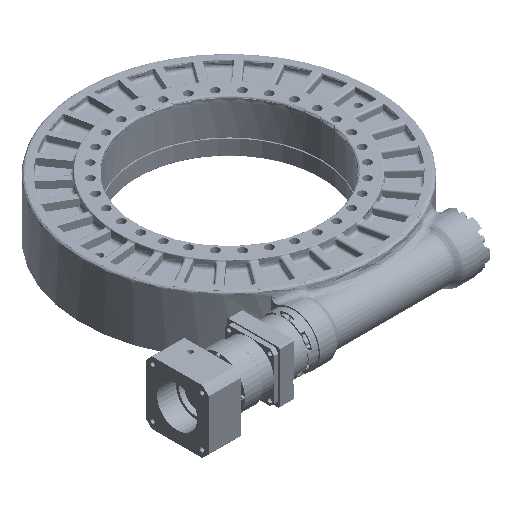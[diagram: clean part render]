
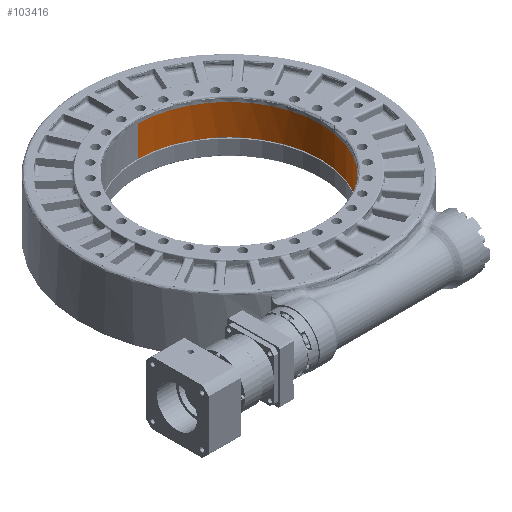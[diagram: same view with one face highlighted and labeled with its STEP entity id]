
A CAD part, isometric view. The second image highlights one B-rep face of the part: STEP entity #103416.
In plain terms, the highlighted cylindrical face has radius 261.5 mm (diameter 523 mm), a partial arc.
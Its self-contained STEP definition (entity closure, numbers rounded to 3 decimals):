
#2168 = CARTESIAN_POINT ( 'NONE',  ( -67.713, -10., -252.726 ) ) ;
#2981 = CARTESIAN_POINT ( 'NONE',  ( 8.565, -10., -261.5 ) ) ;
#3769 = CARTESIAN_POINT ( 'NONE',  ( 258.146, -10., -42.616 ) ) ;
#4538 = CARTESIAN_POINT ( 'NONE',  ( 261.08, -10., -17.108 ) ) ;
#6933 = CARTESIAN_POINT ( 'NONE',  ( -238.317, -10., -107.985 ) ) ;
#7721 = CARTESIAN_POINT ( 'NONE',  ( -207.576, -10., -159.273 ) ) ;
#10005 = VERTEX_POINT ( 'NONE', #82369 ) ;
#13455 = CARTESIAN_POINT ( 'NONE',  ( 254.804, -10., -59.416 ) ) ;
#15031 = CARTESIAN_POINT ( 'NONE',  ( -17.108, -10., -261.08 ) ) ;
#15821 = CARTESIAN_POINT ( 'NONE',  ( 178.852, -10., -190.965 ) ) ;
#16600 = CARTESIAN_POINT ( 'NONE',  ( 238.317, -10., -107.985 ) ) ;
#18187 = CARTESIAN_POINT ( 'NONE',  ( -212.671, -10., -152.403 ) ) ;
#18438 = ORIENTED_EDGE ( 'NONE', *, *, #129071, .T. ) ;
#18984 = CARTESIAN_POINT ( 'NONE',  ( -172.515, -10., -196.709 ) ) ;
#19770 = CARTESIAN_POINT ( 'NONE',  ( -234.66, -10., -115.717 ) ) ;
#24338 = CARTESIAN_POINT ( 'NONE',  ( 261.5, -10., 0. ) ) ;
#25846 = EDGE_CURVE ( 'NONE', #10005, #143662, #96815, .T. ) ;
#26311 = CARTESIAN_POINT ( 'NONE',  ( 130.824, -10., -226.585 ) ) ;
#27538 = VERTEX_POINT ( 'NONE', #108425 ) ;
#27793 = CARTESIAN_POINT ( 'NONE',  ( -261.5, -10., 0. ) ) ;
#29491 = CARTESIAN_POINT ( 'NONE',  ( -138.16, -10., -222.188 ) ) ;
#30837 = CYLINDRICAL_SURFACE ( 'NONE', #137971, 261.5 ) ;
#31892 = CARTESIAN_POINT ( 'NONE',  ( -107.985, -10., -238.317 ) ) ;
#32665 = CARTESIAN_POINT ( 'NONE',  ( -247.754, -10., -84.105 ) ) ;
#40788 = CARTESIAN_POINT ( 'NONE',  ( 42.616, -10., -258.146 ) ) ;
#41339 = DIRECTION ( 'NONE',  ( 0., 1., 0. ) ) ;
#43906 = CARTESIAN_POINT ( 'NONE',  ( -258.146, -10., -42.616 ) ) ;
#44711 = CARTESIAN_POINT ( 'NONE',  ( -196.709, -10., -172.515 ) ) ;
#46608 = AXIS2_PLACEMENT_3D ( 'NONE', #50500, #114872, #52103 ) ;
#50213 = EDGE_CURVE ( 'NONE', #143662, #27538, #146818, .T. ) ;
#50299 = ORIENTED_EDGE ( 'NONE', *, *, #25846, .F. ) ;
#50500 = CARTESIAN_POINT ( 'NONE',  ( 0., 77.5, 0. ) ) ;
#51230 = CARTESIAN_POINT ( 'NONE',  ( 152.403, -10., -212.671 ) ) ;
#52036 = CARTESIAN_POINT ( 'NONE',  ( -34.155, -10., -259.401 ) ) ;
#52103 = DIRECTION ( 'NONE',  ( 0., 0., 1. ) ) ;
#52810 = CARTESIAN_POINT ( 'NONE',  ( 247.754, -10., -84.105 ) ) ;
#53597 = CARTESIAN_POINT ( 'NONE',  ( -42.616, -10., -258.146 ) ) ;
#54382 = CARTESIAN_POINT ( 'NONE',  ( -261.5, -10., 0. ) ) ;
#54926 = FACE_OUTER_BOUND ( 'NONE', #72978, .T. ) ;
#55166 = CARTESIAN_POINT ( 'NONE',  ( -92.159, -10., -244.872 ) ) ;
#60601 = CARTESIAN_POINT ( 'NONE',  ( -261.5, -10., 0. ) ) ;
#62529 = CARTESIAN_POINT ( 'NONE',  ( 207.576, -10., -159.273 ) ) ;
#63296 = CARTESIAN_POINT ( 'NONE',  ( 252.726, -10., -67.713 ) ) ;
#64898 = CARTESIAN_POINT ( 'NONE',  ( 92.159, -10., -244.872 ) ) ;
#65685 = CARTESIAN_POINT ( 'NONE',  ( 115.717, -10., -234.66 ) ) ;
#68071 = CARTESIAN_POINT ( 'NONE',  ( -178.852, -10., -190.965 ) ) ;
#68803 = EDGE_CURVE ( 'NONE', #141704, #27538, #72279, .T. ) ;
#69679 = CARTESIAN_POINT ( 'NONE',  ( -190.965, -10., -178.852 ) ) ;
#72279 = CIRCLE ( 'NONE', #46608, 261.5 ) ;
#72978 = EDGE_LOOP ( 'NONE', ( #50299, #18438, #140172, #110296 ) ) ;
#74649 = CARTESIAN_POINT ( 'NONE',  ( 259.401, -10., -34.155 ) ) ;
#75443 = CARTESIAN_POINT ( 'NONE',  ( 84.105, -10., -247.754 ) ) ;
#77000 = CARTESIAN_POINT ( 'NONE',  ( 212.671, -10., -152.403 ) ) ;
#79351 = CARTESIAN_POINT ( 'NONE',  ( -84.105, -10., -247.754 ) ) ;
#81301 = VECTOR ( 'NONE', #109742, 1000. ) ;
#81739 = CARTESIAN_POINT ( 'NONE',  ( -254.804, -10., -59.416 ) ) ;
#82369 = CARTESIAN_POINT ( 'NONE',  ( 261.5, -10., 0. ) ) ;
#87461 = CARTESIAN_POINT ( 'NONE',  ( 172.515, -10., -196.709 ) ) ;
#88241 = CARTESIAN_POINT ( 'NONE',  ( 261.5, -10., -8.565 ) ) ;
#89810 = CARTESIAN_POINT ( 'NONE',  ( 159.273, -10., -207.576 ) ) ;
#92998 = CARTESIAN_POINT ( 'NONE',  ( -261.5, -10., -8.564 ) ) ;
#96750 = LINE ( 'NONE', #24338, #148239 ) ;
#96815 = B_SPLINE_CURVE_WITH_KNOTS ( 'NONE', 3,
 ( #151080, #88241, #4538, #74649, #3769, #13455, #63296, #52810, #151888, #16600, #148699, #126892, #99557, #77000, #62529, #126085, #137381, #15821, #87461, #89810, #51230, #136611, #26311, #65685, #138972, #64898, #75443, #114017, #100344, #40788, #111636, #113222, #2981, #114801, #15031, #52036, #53597, #112409, #2168, #79351, #55166, #31892, #104300, #115599, #29491, #105905, #117170, #18984, #68071, #69679, #44711, #7721, #18187, #140518, #106697, #19770, #6933, #127653, #32665, #152663, #81739, #43906, #130859, #142158, #92998, #54382 ),
 .UNSPECIFIED., .F., .F.,
 ( 4, 2, 2, 2, 2, 2, 2, 2, 2, 2, 2, 2, 2, 2, 2, 2, 2, 2, 2, 2, 2, 2, 2, 2, 2, 2, 2, 2, 2, 2, 2, 2, 4 ),
 ( 0., 0.031, 0.062, 0.094, 0.125, 0.156, 0.187, 0.219, 0.25, 0.281, 0.312, 0.344, 0.375, 0.406, 0.437, 0.469, 0.5, 0.531, 0.563, 0.594, 0.625, 0.656, 0.688, 0.719, 0.75, 0.781, 0.813, 0.844, 0.875, 0.906, 0.938, 0.969, 1. ),
 .UNSPECIFIED. ) ;
#99557 = CARTESIAN_POINT ( 'NONE',  ( 222.188, -10., -138.16 ) ) ;
#100344 = CARTESIAN_POINT ( 'NONE',  ( 59.416, -10., -254.804 ) ) ;
#103286 = CARTESIAN_POINT ( 'NONE',  ( 0., -10., 0. ) ) ;
#103416 = ADVANCED_FACE ( 'NONE', ( #54926 ), #30837, .F. ) ;
#103944 = CARTESIAN_POINT ( 'NONE',  ( 261.5, 77.5, 0. ) ) ;
#104300 = CARTESIAN_POINT ( 'NONE',  ( -115.717, -10., -234.66 ) ) ;
#104858 = DIRECTION ( 'NONE',  ( -1., 0., 0. ) ) ;
#105905 = CARTESIAN_POINT ( 'NONE',  ( -152.403, -10., -212.671 ) ) ;
#106697 = CARTESIAN_POINT ( 'NONE',  ( -226.585, -10., -130.824 ) ) ;
#108425 = CARTESIAN_POINT ( 'NONE',  ( -261.5, 77.5, 0. ) ) ;
#109742 = DIRECTION ( 'NONE',  ( 0., 1., 0. ) ) ;
#110296 = ORIENTED_EDGE ( 'NONE', *, *, #50213, .F. ) ;
#111636 = CARTESIAN_POINT ( 'NONE',  ( 34.155, -10., -259.401 ) ) ;
#112409 = CARTESIAN_POINT ( 'NONE',  ( -59.416, -10., -254.804 ) ) ;
#113222 = CARTESIAN_POINT ( 'NONE',  ( 17.108, -10., -261.08 ) ) ;
#114017 = CARTESIAN_POINT ( 'NONE',  ( 67.713, -10., -252.726 ) ) ;
#114801 = CARTESIAN_POINT ( 'NONE',  ( -8.565, -10., -261.5 ) ) ;
#114872 = DIRECTION ( 'NONE',  ( 0., 1., 0. ) ) ;
#115599 = CARTESIAN_POINT ( 'NONE',  ( -130.824, -10., -226.585 ) ) ;
#117170 = CARTESIAN_POINT ( 'NONE',  ( -159.273, -10., -207.576 ) ) ;
#122513 = DIRECTION ( 'NONE',  ( 0., 1., 0. ) ) ;
#126085 = CARTESIAN_POINT ( 'NONE',  ( 196.709, -10., -172.515 ) ) ;
#126892 = CARTESIAN_POINT ( 'NONE',  ( 226.585, -10., -130.824 ) ) ;
#127653 = CARTESIAN_POINT ( 'NONE',  ( -244.872, -10., -92.159 ) ) ;
#129071 = EDGE_CURVE ( 'NONE', #10005, #141704, #96750, .T. ) ;
#130859 = CARTESIAN_POINT ( 'NONE',  ( -259.401, -10., -34.155 ) ) ;
#136611 = CARTESIAN_POINT ( 'NONE',  ( 138.16, -10., -222.188 ) ) ;
#137381 = CARTESIAN_POINT ( 'NONE',  ( 190.965, -10., -178.852 ) ) ;
#137971 = AXIS2_PLACEMENT_3D ( 'NONE', #103286, #41339, #104858 ) ;
#138972 = CARTESIAN_POINT ( 'NONE',  ( 107.985, -10., -238.317 ) ) ;
#140172 = ORIENTED_EDGE ( 'NONE', *, *, #68803, .T. ) ;
#140518 = CARTESIAN_POINT ( 'NONE',  ( -222.188, -10., -138.16 ) ) ;
#141704 = VERTEX_POINT ( 'NONE', #103944 ) ;
#142158 = CARTESIAN_POINT ( 'NONE',  ( -261.08, -10., -17.108 ) ) ;
#143662 = VERTEX_POINT ( 'NONE', #27793 ) ;
#146818 = LINE ( 'NONE', #60601, #81301 ) ;
#148239 = VECTOR ( 'NONE', #122513, 1000. ) ;
#148699 = CARTESIAN_POINT ( 'NONE',  ( 234.66, -10., -115.717 ) ) ;
#151080 = CARTESIAN_POINT ( 'NONE',  ( 261.5, -10., 0. ) ) ;
#151888 = CARTESIAN_POINT ( 'NONE',  ( 244.872, -10., -92.159 ) ) ;
#152663 = CARTESIAN_POINT ( 'NONE',  ( -252.726, -10., -67.713 ) ) ;
